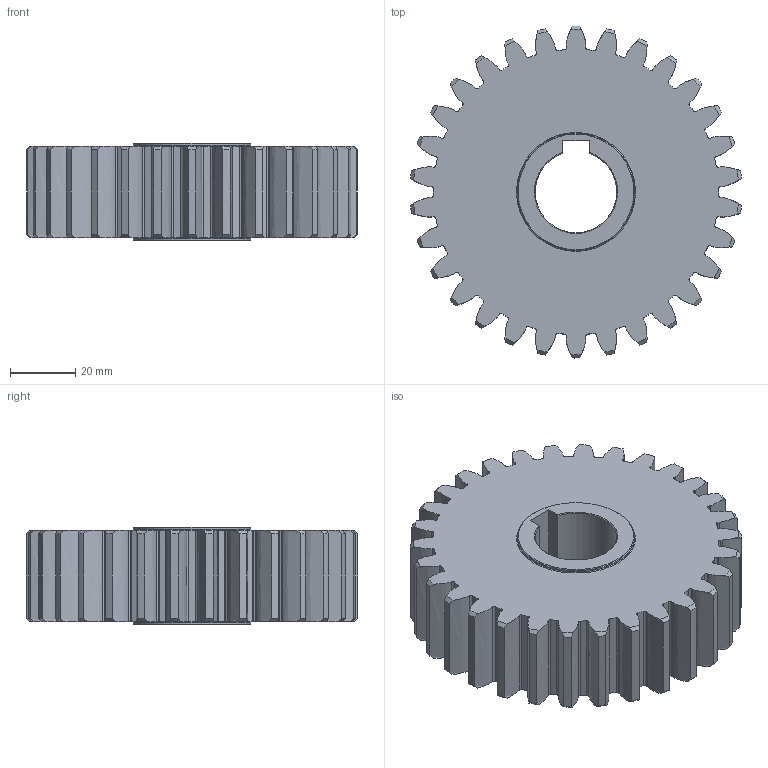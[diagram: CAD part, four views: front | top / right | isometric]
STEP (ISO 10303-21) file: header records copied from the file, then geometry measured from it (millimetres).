
FILE_DESCRIPTION (( 'STEP AP214' ), '1' );
FILE_NAME ('1SG__S031030S.STEP', '2021-12-20T08:42:33', ( '' ), ( '' ), 'SwSTEP 2.0', 'SolidWorks 2021', '' );
FILE_SCHEMA (( 'AUTOMOTIVE_DESIGN' ));
Length unit declared in the file: millimetre
Products named in the file (1): 1SG__S031030S
Bounding box: 101.52 x 101.86 x 30 mm (x, y, z)
Volume: 184271.5 mm3; surface area: 32695 mm2
Topology: 1 solids, 1 shells, 314 faces, 978 edges, 668 vertices
Faces by surface type: cylinder 113, bspline 90, cone 70, plane 37, torus 4
Entity records: 19632 total; most frequent: CARTESIAN_POINT 11243, ORIENTED_EDGE 1956, DIRECTION 1548, EDGE_CURVE 978, VERTEX_POINT 668, AXIS2_PLACEMENT_3D 589, LINE 370, VECTOR 370
